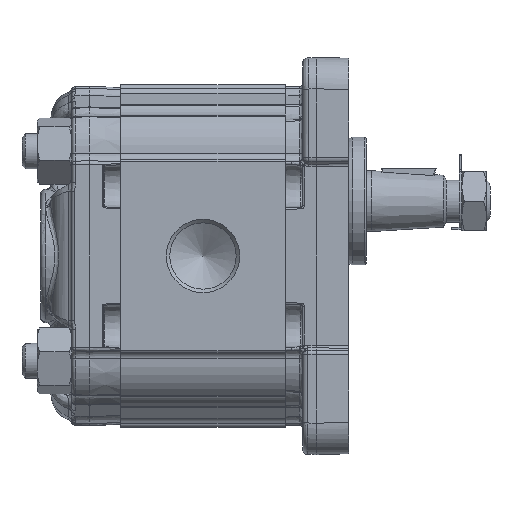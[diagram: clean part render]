
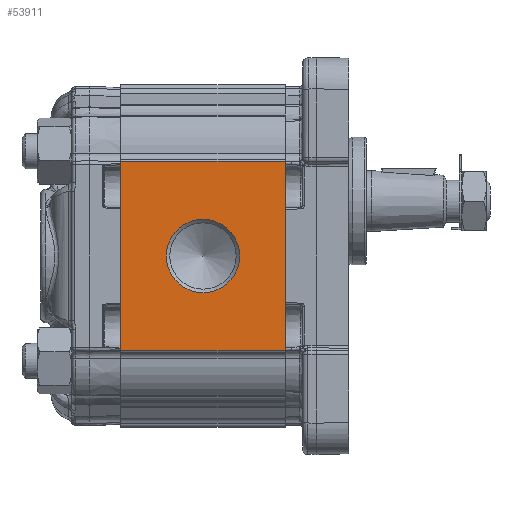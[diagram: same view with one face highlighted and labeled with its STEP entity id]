
A CAD part, left-side view. The second image highlights one B-rep face of the part: STEP entity #53911.
In plain terms, the highlighted planar face has unit normal (-1, 0, 0) as drawn and (1, 0, 0) by its records, which use the part's own axes.
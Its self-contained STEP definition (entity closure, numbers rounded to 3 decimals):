
#3593=PLANE('',#57162);
#4579=LINE('',#77361,#6430);
#4585=LINE('',#77426,#6436);
#4617=LINE('',#77526,#6468);
#4618=LINE('',#77530,#6469);
#6430=VECTOR('',#62976,1000.);
#6436=VECTOR('',#63036,1000.);
#6468=VECTOR('',#63154,1000.);
#6469=VECTOR('',#63159,1000.);
#11755=ORIENTED_EDGE('',*,*,#20952,.T.);
#11756=ORIENTED_EDGE('',*,*,#20898,.F.);
#11757=ORIENTED_EDGE('',*,*,#20951,.F.);
#11758=ORIENTED_EDGE('',*,*,#20866,.T.);
#11759=ORIENTED_EDGE('',*,*,#20953,.T.);
#20866=EDGE_CURVE('',#25783,#25782,#4579,.T.);
#20898=EDGE_CURVE('',#25814,#25815,#4585,.T.);
#20951=EDGE_CURVE('',#25783,#25814,#4617,.T.);
#20952=EDGE_CURVE('',#25840,#25840,#28906,.F.);
#20953=EDGE_CURVE('',#25782,#25815,#4618,.T.);
#25782=VERTEX_POINT('',#77360);
#25783=VERTEX_POINT('',#77362);
#25814=VERTEX_POINT('',#77425);
#25815=VERTEX_POINT('',#77427);
#25840=VERTEX_POINT('',#77529);
#28906=CIRCLE('',#57163,10.5);
#30830=EDGE_LOOP('',(#11755));
#30831=EDGE_LOOP('',(#11756,#11757,#11758,#11759));
#33639=FACE_BOUND('',#30830,.T.);
#33640=FACE_BOUND('',#30831,.T.);
#53911=ADVANCED_FACE('',(#33639,#33640),#3593,.T.);
#57162=AXIS2_PLACEMENT_3D('',#77527,#63155,#63156);
#57163=AXIS2_PLACEMENT_3D('',#77528,#63157,#63158);
#62976=DIRECTION('',(0.,0.,1.));
#63036=DIRECTION('',(0.,0.,1.));
#63154=DIRECTION('',(0.,-1.,0.));
#63155=DIRECTION('',(1.,0.,0.));
#63156=DIRECTION('',(0.,0.,-1.));
#63157=DIRECTION('',(1.,0.,0.));
#63158=DIRECTION('',(0.,0.,-1.));
#63159=DIRECTION('',(0.,-1.,0.));
#77360=CARTESIAN_POINT('',(43.,47.,27.048));
#77361=CARTESIAN_POINT('',(43.,47.,27.048));
#77362=CARTESIAN_POINT('',(43.,47.,-27.048));
#77425=CARTESIAN_POINT('',(43.,0.,-27.048));
#77426=CARTESIAN_POINT('',(43.,0.,27.048));
#77427=CARTESIAN_POINT('',(43.,0.,27.048));
#77526=CARTESIAN_POINT('',(43.,47.,-27.048));
#77527=CARTESIAN_POINT('',(43.,47.,27.048));
#77528=CARTESIAN_POINT('',(43.,23.5,0.));
#77529=CARTESIAN_POINT('',(43.,23.5,-10.5));
#77530=CARTESIAN_POINT('',(43.,47.,27.048));
